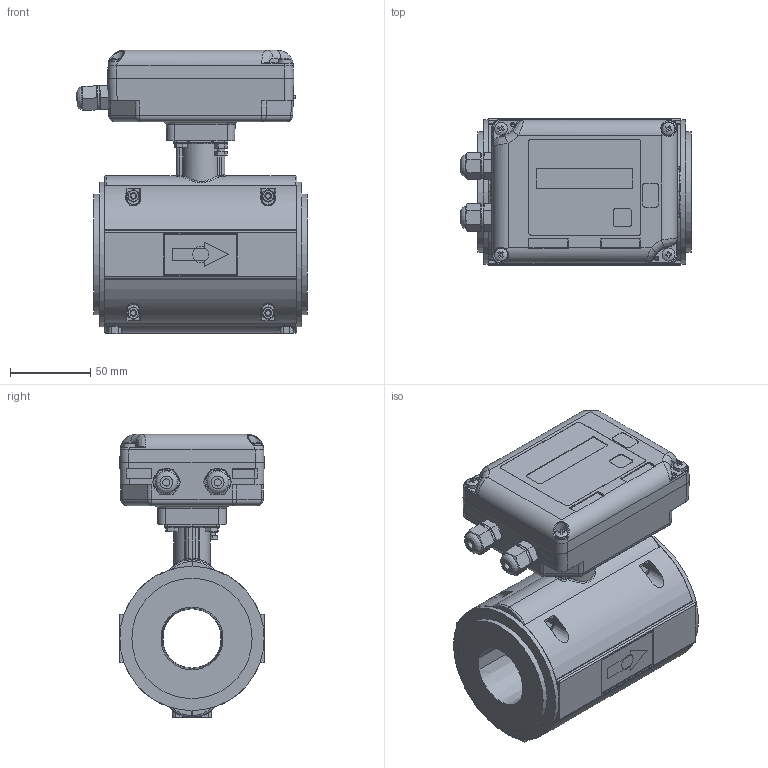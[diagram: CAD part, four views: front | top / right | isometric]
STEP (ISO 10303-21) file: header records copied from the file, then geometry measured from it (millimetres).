
FILE_DESCRIPTION(('STEP AP242'), '1');
FILE_NAME('1_ØÊÑÄ.407212.032-003 Ðàñõîäîìåð-ñ÷¸ò÷èê ýëåêòðîìàãíèòíûé Âçë¸ò èñïîëíåíèå Ëàéò Ì', '', ('UNSPECIFIED'), ('UNSPECIFIED'), 'ASCON STEP Converter 1.6', 'ASCON Math Kernel', '');
FILE_SCHEMA(('AP242_MANAGED_MODEL_BASED_3D_ENGINEERING_MIM_LF { 1 0 10303 442 1 1 4 }'));
Length unit declared in the file: millimetre
Products named in the file (1): 婽挭.407212.032-003.03-003.07
Bounding box: 143.68 x 91 x 176.9 mm (x, y, z)
Volume: 526631.5 mm3; surface area: 282162.7 mm2
Topology: 60 solids, 60 shells, 2749 faces, 6638 edges, 4003 vertices
Faces by surface type: plane 999, cylinder 762, bspline 457, cone 303, torus 168, sphere 60
Full cylindrical faces by diameter (mm): 2 x4, 2.3 x9, 2.4 x2, 3 x2, 3.242 x13, 3.422 x4, 3.6 x2, 4 x62, 4.3 x8, 4.5 x20, 5.5 x8, 6 x2, 7 x20, 7.5 x4, 7.65 x1, 8 x7, 9 x7, 10 x1, 12 x6, 12.2 x2, 12.5 x2, 15 x2, 16.5 x2, 17 x1, 18 x1, 75 x2, 79 x2, 82 x2, 83 x4, 90 x2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
Entity records: 204608 total; most frequent: CARTESIAN_POINT 125965, ORIENTED_EDGE 11982, DIRECTION 9899, EDGE_CURVE 5991, VERTEX_POINT 3941, AXIS2_PLACEMENT_3D 3761, EDGE_LOOP 3474, COLOUR_RGB 2809
